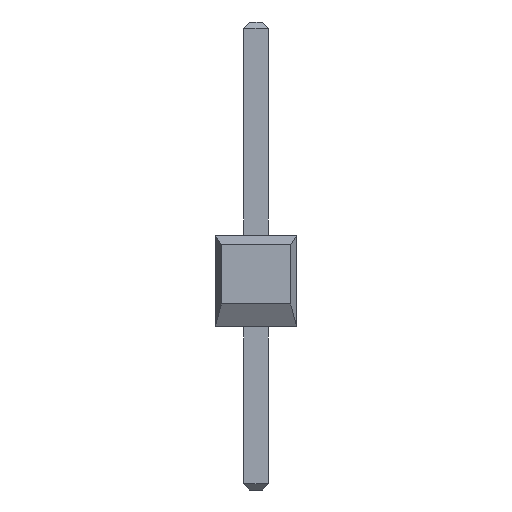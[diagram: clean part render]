
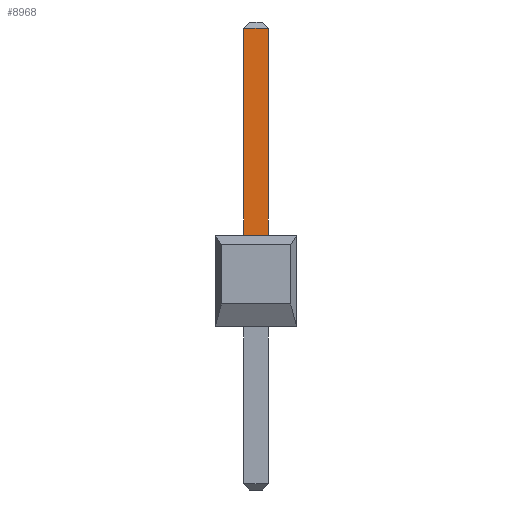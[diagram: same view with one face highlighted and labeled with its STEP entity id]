
A CAD part, left-side view. The second image highlights one B-rep face of the part: STEP entity #8968.
In plain terms, the highlighted planar face has unit normal (-1, 0, 0).
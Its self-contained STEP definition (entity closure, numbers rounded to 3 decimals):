
#8734=CARTESIAN_POINT('',(-0.381,0.381,9.309));
#8733=VERTEX_POINT('',#8734);
#8783=CARTESIAN_POINT('',(-0.381,-0.381,9.309));
#8782=VERTEX_POINT('',#8783);
#8781=EDGE_CURVE('',#8782,#8733,#8786,.T.);
#8786=LINE('',#8783,#8788);
#8788=VECTOR('',#8789,0.762);
#8789=DIRECTION('',(0.0,1.0,0.0));
#8930=CARTESIAN_POINT('',(-0.381,0.381,2.862));
#8929=VERTEX_POINT('',#8930);
#8938=EDGE_CURVE('',#8733,#8929,#8943,.T.);
#8943=LINE('',#8734,#8945);
#8945=VECTOR('',#8946,6.447);
#8946=DIRECTION('',(0.0,0.0,-1.0));
#8968=ADVANCED_FACE('',(#8974),#8969,.T.);
#8969=PLANE('',#8970);
#8970=AXIS2_PLACEMENT_3D('',#8971,#8972,#8973);
#8971=CARTESIAN_POINT('',(-0.381,0.381,2.862));
#8972=DIRECTION('',(-1.0,0.0,0.0));
#8973=DIRECTION('',(0.,0.,1.));
#8974=FACE_OUTER_BOUND('',#8975,.T.);
#8975=EDGE_LOOP('',(#8976,#8986,#8996,#9006));
#8979=CARTESIAN_POINT('',(-0.381,-0.381,2.862));
#8978=VERTEX_POINT('',#8979);
#8977=EDGE_CURVE('',#8978,#8929,#8982,.T.);
#8982=LINE('',#8979,#8984);
#8984=VECTOR('',#8985,0.762);
#8985=DIRECTION('',(0.0,1.0,0.0));
#8976=ORIENTED_EDGE('',*,*,#8977,.F.);
#8987=EDGE_CURVE('',#8782,#8978,#8992,.T.);
#8992=LINE('',#8783,#8994);
#8994=VECTOR('',#8995,6.447);
#8995=DIRECTION('',(0.0,0.0,-1.0));
#8986=ORIENTED_EDGE('',*,*,#8987,.F.);
#8996=ORIENTED_EDGE('',*,*,#8781,.T.);
#9006=ORIENTED_EDGE('',*,*,#8938,.T.);
